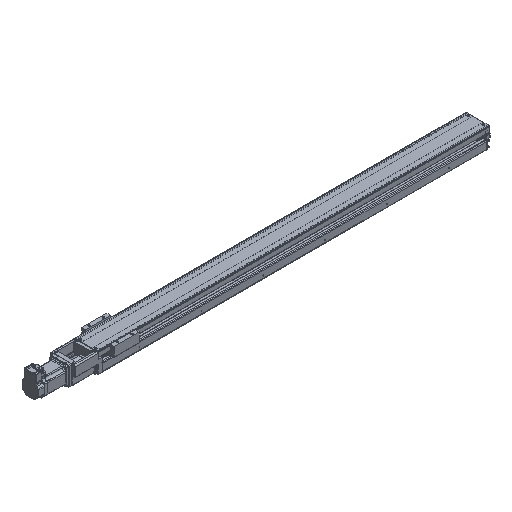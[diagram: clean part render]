
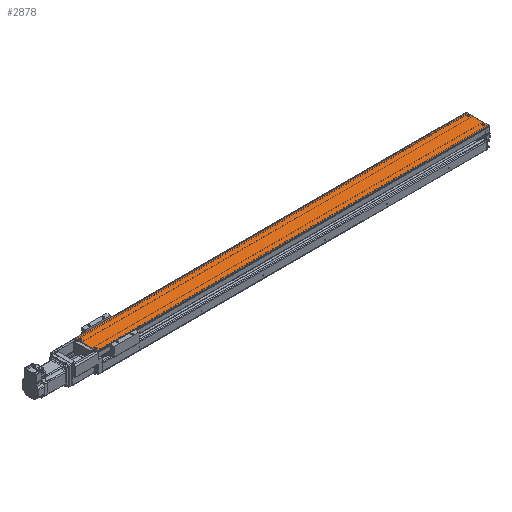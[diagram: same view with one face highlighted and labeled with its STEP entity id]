
A CAD part, isometric view. The second image highlights one B-rep face of the part: STEP entity #2878.
In plain terms, the highlighted planar face has unit normal (0, 0, 1).
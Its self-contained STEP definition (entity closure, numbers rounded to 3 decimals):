
#287 = CYLINDRICAL_SURFACE('',#288,2.);
#288 = AXIS2_PLACEMENT_3D('',#289,#290,#291);
#289 = CARTESIAN_POINT('',(-49.88,-781.69,-8.33));
#290 = DIRECTION('',(-1.,0.,-0.));
#291 = DIRECTION('',(0.,-0.707,0.707)
  );
#316 = PLANE('',#317);
#317 = AXIS2_PLACEMENT_3D('',#318,#319,#320);
#318 = CARTESIAN_POINT('',(-232.38,-743.69,-31.54));
#319 = DIRECTION('',(-1.,0.,0.));
#320 = DIRECTION('',(0.,-1.,0.));
#375 = PLANE('',#376);
#376 = AXIS2_PLACEMENT_3D('',#377,#378,#379);
#377 = CARTESIAN_POINT('',(1031.62,-721.19,-12.415));
#378 = DIRECTION('',(1.,0.,0.));
#379 = DIRECTION('',(0.,0.,-1.));
#417 = CYLINDRICAL_SURFACE('',#418,2.);
#418 = AXIS2_PLACEMENT_3D('',#419,#420,#421);
#419 = CARTESIAN_POINT('',(-49.88,-708.69,-8.33));
#420 = DIRECTION('',(1.,0.,-0.));
#421 = DIRECTION('',(0.,0.707,0.707)
  );
#2033 = VERTEX_POINT('',#2034);
#2034 = CARTESIAN_POINT('',(-232.38,-781.69,-6.33));
#2060 = EDGE_CURVE('',#2061,#2033,#2063,.T.);
#2061 = VERTEX_POINT('',#2062);
#2062 = CARTESIAN_POINT('',(-232.38,-708.69,-6.33));
#2063 = SURFACE_CURVE('',#2064,(#2068,#2075),.PCURVE_S1.);
#2064 = LINE('',#2065,#2066);
#2065 = CARTESIAN_POINT('',(-232.38,-744.44,-6.33));
#2066 = VECTOR('',#2067,1.);
#2067 = DIRECTION('',(0.,-1.,0.));
#2068 = PCURVE('',#316,#2069);
#2069 = DEFINITIONAL_REPRESENTATION('',(#2070),#2074);
#2070 = LINE('',#2071,#2072);
#2071 = CARTESIAN_POINT('',(0.75,25.21));
#2072 = VECTOR('',#2073,1.);
#2073 = DIRECTION('',(1.,0.));
#2074 = ( GEOMETRIC_REPRESENTATION_CONTEXT(2) 
PARAMETRIC_REPRESENTATION_CONTEXT() REPRESENTATION_CONTEXT('2D SPACE',''
  ) );
#2075 = PCURVE('',#2076,#2081);
#2076 = PLANE('',#2077);
#2077 = AXIS2_PLACEMENT_3D('',#2078,#2079,#2080);
#2078 = CARTESIAN_POINT('',(-49.88,-745.19,-6.33));
#2079 = DIRECTION('',(0.,-0.,1.));
#2080 = DIRECTION('',(1.,0.,0.));
#2081 = DEFINITIONAL_REPRESENTATION('',(#2082),#2086);
#2082 = LINE('',#2083,#2084);
#2083 = CARTESIAN_POINT('',(-182.5,0.75));
#2084 = VECTOR('',#2085,1.);
#2085 = DIRECTION('',(0.,-1.));
#2086 = ( GEOMETRIC_REPRESENTATION_CONTEXT(2) 
PARAMETRIC_REPRESENTATION_CONTEXT() REPRESENTATION_CONTEXT('2D SPACE',''
  ) );
#2830 = EDGE_CURVE('',#2061,#2831,#2833,.T.);
#2831 = VERTEX_POINT('',#2832);
#2832 = CARTESIAN_POINT('',(1031.62,-708.69,-6.33));
#2833 = SURFACE_CURVE('',#2834,(#2838,#2845),.PCURVE_S1.);
#2834 = LINE('',#2835,#2836);
#2835 = CARTESIAN_POINT('',(550.12,-708.69,-6.33));
#2836 = VECTOR('',#2837,1.);
#2837 = DIRECTION('',(1.,0.,0.));
#2838 = PCURVE('',#417,#2839);
#2839 = DEFINITIONAL_REPRESENTATION('',(#2840),#2844);
#2840 = LINE('',#2841,#2842);
#2841 = CARTESIAN_POINT('',(0.785,600.));
#2842 = VECTOR('',#2843,1.);
#2843 = DIRECTION('',(0.,1.));
#2844 = ( GEOMETRIC_REPRESENTATION_CONTEXT(2) 
PARAMETRIC_REPRESENTATION_CONTEXT() REPRESENTATION_CONTEXT('2D SPACE',''
  ) );
#2845 = PCURVE('',#2076,#2846);
#2846 = DEFINITIONAL_REPRESENTATION('',(#2847),#2851);
#2847 = LINE('',#2848,#2849);
#2848 = CARTESIAN_POINT('',(600.,36.5));
#2849 = VECTOR('',#2850,1.);
#2850 = DIRECTION('',(1.,0.));
#2851 = ( GEOMETRIC_REPRESENTATION_CONTEXT(2) 
PARAMETRIC_REPRESENTATION_CONTEXT() REPRESENTATION_CONTEXT('2D SPACE',''
  ) );
#2878 = ADVANCED_FACE('',(#2879),#2076,.T.);
#2879 = FACE_BOUND('',#2880,.T.);
#2880 = EDGE_LOOP('',(#2881,#2882,#2905,#2926));
#2881 = ORIENTED_EDGE('',*,*,#2060,.T.);
#2882 = ORIENTED_EDGE('',*,*,#2883,.F.);
#2883 = EDGE_CURVE('',#2884,#2033,#2886,.T.);
#2884 = VERTEX_POINT('',#2885);
#2885 = CARTESIAN_POINT('',(1031.62,-781.69,-6.33));
#2886 = SURFACE_CURVE('',#2887,(#2891,#2898),.PCURVE_S1.);
#2887 = LINE('',#2888,#2889);
#2888 = CARTESIAN_POINT('',(550.12,-781.69,-6.33));
#2889 = VECTOR('',#2890,1.);
#2890 = DIRECTION('',(-1.,0.,0.));
#2891 = PCURVE('',#2076,#2892);
#2892 = DEFINITIONAL_REPRESENTATION('',(#2893),#2897);
#2893 = LINE('',#2894,#2895);
#2894 = CARTESIAN_POINT('',(600.,-36.5));
#2895 = VECTOR('',#2896,1.);
#2896 = DIRECTION('',(-1.,0.));
#2897 = ( GEOMETRIC_REPRESENTATION_CONTEXT(2) 
PARAMETRIC_REPRESENTATION_CONTEXT() REPRESENTATION_CONTEXT('2D SPACE',''
  ) );
#2898 = PCURVE('',#287,#2899);
#2899 = DEFINITIONAL_REPRESENTATION('',(#2900),#2904);
#2900 = LINE('',#2901,#2902);
#2901 = CARTESIAN_POINT('',(0.785,-600.));
#2902 = VECTOR('',#2903,1.);
#2903 = DIRECTION('',(0.,1.));
#2904 = ( GEOMETRIC_REPRESENTATION_CONTEXT(2) 
PARAMETRIC_REPRESENTATION_CONTEXT() REPRESENTATION_CONTEXT('2D SPACE',''
  ) );
#2905 = ORIENTED_EDGE('',*,*,#2906,.T.);
#2906 = EDGE_CURVE('',#2884,#2831,#2907,.T.);
#2907 = SURFACE_CURVE('',#2908,(#2912,#2919),.PCURVE_S1.);
#2908 = LINE('',#2909,#2910);
#2909 = CARTESIAN_POINT('',(1031.62,-745.19,-6.33));
#2910 = VECTOR('',#2911,1.);
#2911 = DIRECTION('',(0.,1.,0.));
#2912 = PCURVE('',#2076,#2913);
#2913 = DEFINITIONAL_REPRESENTATION('',(#2914),#2918);
#2914 = LINE('',#2915,#2916);
#2915 = CARTESIAN_POINT('',(1081.5,0.));
#2916 = VECTOR('',#2917,1.);
#2917 = DIRECTION('',(0.,1.));
#2918 = ( GEOMETRIC_REPRESENTATION_CONTEXT(2) 
PARAMETRIC_REPRESENTATION_CONTEXT() REPRESENTATION_CONTEXT('2D SPACE',''
  ) );
#2919 = PCURVE('',#375,#2920);
#2920 = DEFINITIONAL_REPRESENTATION('',(#2921),#2925);
#2921 = LINE('',#2922,#2923);
#2922 = CARTESIAN_POINT('',(-6.085,-24.));
#2923 = VECTOR('',#2924,1.);
#2924 = DIRECTION('',(0.,1.));
#2925 = ( GEOMETRIC_REPRESENTATION_CONTEXT(2) 
PARAMETRIC_REPRESENTATION_CONTEXT() REPRESENTATION_CONTEXT('2D SPACE',''
  ) );
#2926 = ORIENTED_EDGE('',*,*,#2830,.F.);
